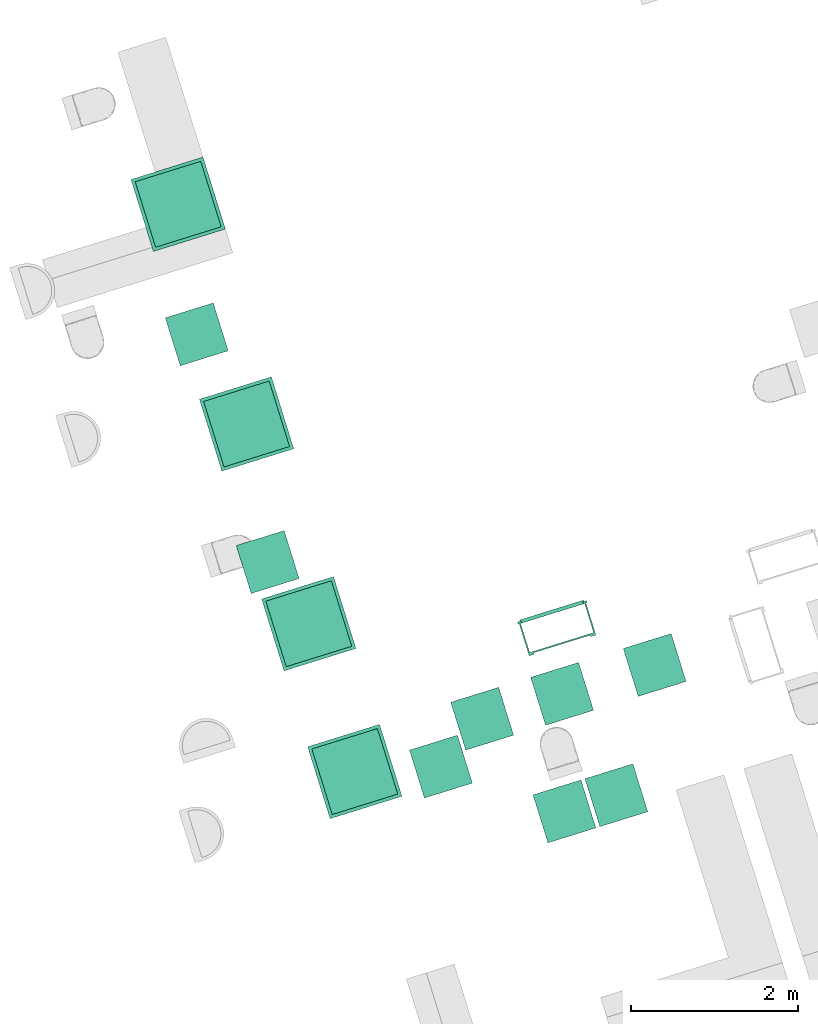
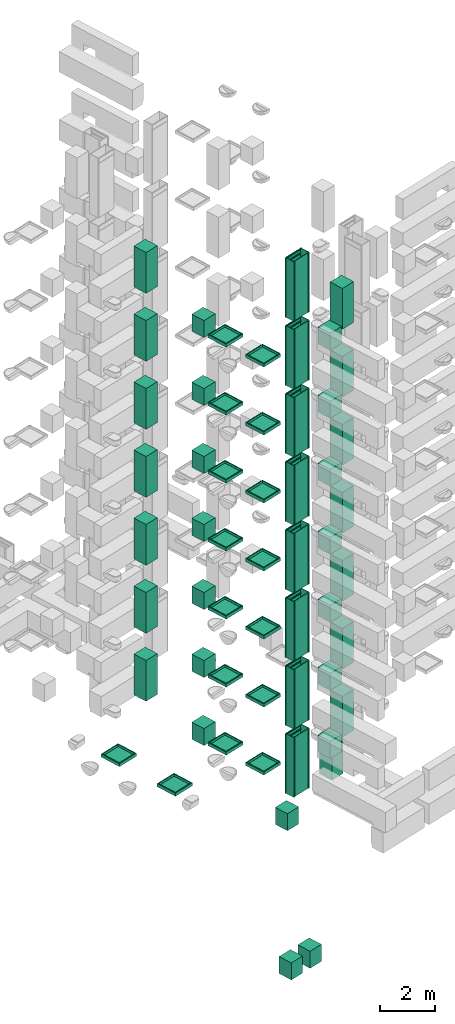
# Not in any storey, part 1 of 17: 17 electric appliances, 16 sanitary terminals, 15 boilers, 8 distribution chamber elements.
"""IFC4 model written with IfcOpenShell, lengths in metres."""

from ifc_helpers import new_model, entity, si_unit, converted_unit, direction, frame, origin, place, context, subcontext, project, indexed_curve, outline, extrude, polygons, source, transform, mapped, material, type_object, type_shapes, element, save


model = new_model("IFC4")

# Units and contexts
model_context = context("Model", 3, precision=1e-05, world=origin(), true_north=direction((6.12323399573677e-17, 1.0)))
body_context = subcontext(model_context, "Body", "Model", "MODEL_VIEW")
ifc_project = project(units=[si_unit("LENGTHUNIT", "METRE"), si_unit("AREAUNIT", "SQUARE_METRE"), converted_unit("PLANEANGLEUNIT", "DEGREE", entity("IfcPlaneAngleMeasure", 0.0174532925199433), si_unit("PLANEANGLEUNIT", "RADIAN"), dimensions=[0, 0, 0, 0, 0, 0, 0]), si_unit("VOLUMEUNIT", "CUBIC_METRE")], contexts=[model_context])

# Distribution chamber elements
ifc_material = material(Name="<Unnamed>")
distribution_chamber_element_type = type_object("IfcDistributionChamberElementType", Name="NLRS_61_GM_UN_Jonka meterkast_gen:Jonka_kast", PredefinedType="METERCHAMBER", material=ifc_material)
shared_shape_1 = source(origin(), body_context, "Body", "SweptSolid", [
    extrude(outline(indexed_curve([(-0.0230000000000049, -0.00925000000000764), (-0.00900000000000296, -0.00925000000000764), (-0.00900000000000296, 0.000749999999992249), (0.00899999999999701, 0.000749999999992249), (0.00899999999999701, -0.00925000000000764), (0.023000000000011, -0.00925000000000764), (0.023000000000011, 0.0177500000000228), (-0.0230000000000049, 0.0177500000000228), (-0.0230000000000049, -0.00925000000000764)], self_intersect=False)), frame((-0.408999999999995, 0.409249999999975, 0.0)), (0.0, 0.0, 1.0), 2.63),
    extrude(outline(indexed_curve([(-0.0230000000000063, -0.00925000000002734), (-0.00900000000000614, -0.00925000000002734), (-0.00900000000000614, 0.00074999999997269), (0.00900000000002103, 0.00074999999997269), (0.00900000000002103, -0.00925000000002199), (0.0229999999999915, -0.00925000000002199), (0.0229999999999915, 0.0177500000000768), (-0.0230000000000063, 0.0177500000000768), (-0.0230000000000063, -0.00925000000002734)], self_intersect=False)), frame((0.409000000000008, 0.409249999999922, 0.0)), (0.0, 0.0, 1.0), 2.63),
    extrude(outline(indexed_curve([(-0.00899999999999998, -0.204999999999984), (0.00899999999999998, -0.204999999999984), (0.00899999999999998, 0.204999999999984), (-0.00899999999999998, 0.204999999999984), (-0.00899999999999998, -0.204999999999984)], self_intersect=False)), frame((-0.408999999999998, 0.204999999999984, 0.0)), (0.0, 0.0, 1.0), 2.63),
    extrude(outline(indexed_curve([(-0.00900000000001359, -0.204999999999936), (0.00900000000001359, -0.204999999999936), (0.00900000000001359, 0.204999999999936), (-0.00900000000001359, 0.204999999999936), (-0.00900000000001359, -0.204999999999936)], self_intersect=False)), frame((0.409000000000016, 0.204999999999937, 0.0)), (0.0, 0.0, 1.0), 2.63),
    extrude(outline(indexed_curve([(-0.00799999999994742, -0.399999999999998), (0.00799999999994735, -0.399999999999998), (0.00799999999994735, 0.399999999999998), (-0.00799999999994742, 0.399999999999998), (-0.00799999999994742, -0.399999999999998)], self_intersect=False)), frame((0.0, 0.434999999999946, 0.00999999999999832), z_axis=(0.0, 0.0, 1.0), x_axis=(0.0, 1.0, 0.0)), (0.0, 0.0, 1.0), 2.39),
    extrude(outline(indexed_curve([(-0.0090000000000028, -0.400000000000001), (0.00899999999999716, -0.400000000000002), (0.0090000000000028, 0.400000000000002), (-0.00899999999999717, 0.400000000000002), (-0.0090000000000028, -0.400000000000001)], self_intersect=False)), frame((0.0, 0.0280000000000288, 0.0), z_axis=(0.0, 0.0, 1.0), x_axis=(0.0, 1.0, 0.0)), (0.0, 0.0, 1.0), 2.63),
    extrude(outline(indexed_curve([(-0.0095, -0.023), (0.0095, -0.023), (0.0095, 0.023), (-0.0095, 0.023), (-0.0095, -0.023)], self_intersect=False)), frame((-0.376999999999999, 0.0095, 0.0), z_axis=(0.0, 0.0, 1.0), x_axis=(0.0, 1.0, 0.0)), (0.0, 0.0, 1.0), 2.63),
    extrude(outline(indexed_curve([(-0.0095, -0.022999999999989), (0.0095, -0.022999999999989), (0.0095, 0.022999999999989), (-0.0095, 0.022999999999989), (-0.0095, -0.022999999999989)], self_intersect=False)), frame((0.377000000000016, 0.00950000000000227, 0.0), z_axis=(0.0, 0.0, 1.0), x_axis=(0.0, 1.0, 0.0)), (0.0, 0.0, 1.0), 2.63),
    extrude(outline(indexed_curve([(-0.00799999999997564, -0.399999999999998), (0.00799999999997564, -0.399999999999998), (0.00799999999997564, 0.399999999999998), (-0.00799999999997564, 0.399999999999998), (-0.00799999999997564, -0.399999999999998)], self_intersect=False)), frame((0.0, 0.434999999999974, 2.41800000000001), z_axis=(0.0, 0.0, 1.0), x_axis=(0.0, 1.0, 0.0)), (0.0, 0.0, 1.0), 0.197000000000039),
    extrude(outline(indexed_curve([(-0.0177500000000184, -0.0230000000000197), (0.00925000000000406, -0.0230000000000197), (0.00925000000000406, -0.00899999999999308), (-0.00074999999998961, -0.00899999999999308), (-0.00074999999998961, 0.00900000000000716), (0.00925000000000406, 0.00900000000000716), (0.00925000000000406, 0.0230000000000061), (-0.0177500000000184, 0.0230000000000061), (-0.0177500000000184, -0.0230000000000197)], self_intersect=False)), frame((-0.386, 0.409249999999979, 2.59200000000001), z_axis=(1.0, 0.0, 0.0), x_axis=(0.0, -1.0, 0.0)), (0.0, 0.0, 1.0), 0.772),
    extrude(outline(indexed_curve([(-0.0177500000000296, -0.0229999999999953), (0.00925000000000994, -0.0229999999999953), (0.00925000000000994, -0.00899999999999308), (-0.000749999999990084, -0.00899999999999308), (-0.000749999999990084, 0.00900000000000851), (0.00925000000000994, 0.00900000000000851), (0.00925000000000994, 0.0229999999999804), (-0.0177500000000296, 0.0229999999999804), (-0.0177500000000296, -0.0229999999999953)], self_intersect=False)), frame((-0.386, 0.40924999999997, 2.40900000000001), z_axis=(1.0, 0.0, 0.0), x_axis=(0.0, -1.0, 0.0)), (0.0, 0.0, 1.0), 0.772),
    extrude(outline(indexed_curve([(-0.0177500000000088, -0.0230000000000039), (0.00925000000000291, -0.0230000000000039), (0.00925000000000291, -0.00899999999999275), (-0.000749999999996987, -0.00899999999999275), (-0.000749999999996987, 0.00899999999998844), (0.00925000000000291, 0.00899999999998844), (0.00925000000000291, 0.0230000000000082), (-0.0177500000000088, 0.0230000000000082), (-0.0177500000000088, -0.0230000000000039)], self_intersect=False)), frame((-0.386, 0.409249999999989, 0.0229999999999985), z_axis=(1.0, 0.0, 0.0), x_axis=(0.0, -1.0, 0.0)), (0.0, 0.0, 1.0), 0.772),
])
type_shapes(distribution_chamber_element_type, [shared_shape_1])
placement_1 = place(None, frame((13.1347999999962, 11.9886000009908, 0.0), z_axis=(0.0, 0.0, 1.0), x_axis=(0.954770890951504, 0.297342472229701, 0.0)))
placement_2 = place(placement_1, origin())
placement_3 = place(placement_2, frame((0.0, 0.0, 6.9)))
placement_4 = place(placement_3, origin())
distribution_chamber_element_1_placement = place(placement_4, frame((67.2429999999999, 12.0249999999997, 0.0)))
element("IfcDistributionChamberElement", 1, at=distribution_chamber_element_1_placement, type_object=distribution_chamber_element_type, material=ifc_material, Name="NLRS_61_GM_UN_Jonka meterkast_gen:Jonka_kast", ObjectType="NLRS_61_GM_UN_Jonka meterkast_gen:Jonka_kast", PredefinedType="METERCHAMBER", context=body_context, shape_type="MappedRepresentation", body=[
    mapped(shared_shape_1, transform((0.0, 0.0, 0.0), scale=1.0)),
])
placement_5 = place(placement_2, frame((0.0, 0.0, 9.9)))
placement_6 = place(placement_5, origin())
distribution_chamber_element_2_placement = place(placement_6, frame((67.2429999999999, 12.0249999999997, 0.0)))
element("IfcDistributionChamberElement", 2, at=distribution_chamber_element_2_placement, type_object=distribution_chamber_element_type, material=ifc_material, Name="NLRS_61_GM_UN_Jonka meterkast_gen:Jonka_kast", ObjectType="NLRS_61_GM_UN_Jonka meterkast_gen:Jonka_kast", PredefinedType="METERCHAMBER", context=body_context, shape_type="MappedRepresentation", body=[
    mapped(shared_shape_1, transform((0.0, 0.0, 0.0), scale=1.0)),
])
placement_7 = place(placement_2, frame((0.0, 0.0, 12.9)))
placement_8 = place(placement_7, origin())
distribution_chamber_element_3_placement = place(placement_8, frame((67.2429999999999, 12.0249999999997, 0.0)))
element("IfcDistributionChamberElement", 3, at=distribution_chamber_element_3_placement, type_object=distribution_chamber_element_type, material=ifc_material, Name="NLRS_61_GM_UN_Jonka meterkast_gen:Jonka_kast", ObjectType="NLRS_61_GM_UN_Jonka meterkast_gen:Jonka_kast", PredefinedType="METERCHAMBER", context=body_context, shape_type="MappedRepresentation", body=[
    mapped(shared_shape_1, transform((0.0, 0.0, 0.0), scale=1.0)),
])
placement_9 = place(placement_2, frame((0.0, 0.0, 15.9)))
placement_10 = place(placement_9, origin())
distribution_chamber_element_4_placement = place(placement_10, frame((67.2429999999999, 12.0249999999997, 0.0)))
element("IfcDistributionChamberElement", 4, at=distribution_chamber_element_4_placement, type_object=distribution_chamber_element_type, material=ifc_material, Name="NLRS_61_GM_UN_Jonka meterkast_gen:Jonka_kast", ObjectType="NLRS_61_GM_UN_Jonka meterkast_gen:Jonka_kast", PredefinedType="METERCHAMBER", context=body_context, shape_type="MappedRepresentation", body=[
    mapped(shared_shape_1, transform((0.0, 0.0, 0.0), scale=1.0)),
])
placement_11 = place(placement_2, frame((0.0, 0.0, 18.9)))
placement_12 = place(placement_11, origin())
distribution_chamber_element_5_placement = place(placement_12, frame((67.2429999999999, 12.0249999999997, 0.0)))
element("IfcDistributionChamberElement", 5, at=distribution_chamber_element_5_placement, type_object=distribution_chamber_element_type, material=ifc_material, Name="NLRS_61_GM_UN_Jonka meterkast_gen:Jonka_kast", ObjectType="NLRS_61_GM_UN_Jonka meterkast_gen:Jonka_kast", PredefinedType="METERCHAMBER", context=body_context, shape_type="MappedRepresentation", body=[
    mapped(shared_shape_1, transform((0.0, 0.0, 0.0), scale=1.0)),
])
placement_13 = place(placement_2, frame((0.0, 0.0, 21.9)))
placement_14 = place(placement_13, origin())
distribution_chamber_element_6_placement = place(placement_14, frame((67.2429999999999, 12.0249999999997, 0.0)))
element("IfcDistributionChamberElement", 6, at=distribution_chamber_element_6_placement, type_object=distribution_chamber_element_type, material=ifc_material, Name="NLRS_61_GM_UN_Jonka meterkast_gen:Jonka_kast", ObjectType="NLRS_61_GM_UN_Jonka meterkast_gen:Jonka_kast", PredefinedType="METERCHAMBER", context=body_context, shape_type="MappedRepresentation", body=[
    mapped(shared_shape_1, transform((0.0, 0.0, 0.0), scale=1.0)),
])
placement_15 = place(placement_2, frame((0.0, 0.0, 24.9)))
placement_16 = place(placement_15, origin())
distribution_chamber_element_7_placement = place(placement_16, frame((67.2429999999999, 12.0249999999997, 0.0)))
element("IfcDistributionChamberElement", 7, at=distribution_chamber_element_7_placement, type_object=distribution_chamber_element_type, material=ifc_material, Name="NLRS_61_GM_UN_Jonka meterkast_gen:Jonka_kast", ObjectType="NLRS_61_GM_UN_Jonka meterkast_gen:Jonka_kast", PredefinedType="METERCHAMBER", context=body_context, shape_type="MappedRepresentation", body=[
    mapped(shared_shape_1, transform((0.0, 0.0, 0.0), scale=1.0)),
])
placement_17 = place(placement_2, frame((0.0, 0.0, 3.9)))
placement_18 = place(placement_17, origin())
distribution_chamber_element_8_placement = place(placement_18, frame((67.2430000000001, 12.0250000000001, 0.0)))
element("IfcDistributionChamberElement", 8, at=distribution_chamber_element_8_placement, type_object=distribution_chamber_element_type, material=ifc_material, Name="NLRS_61_GM_UN_Jonka meterkast_gen:Jonka_kast", ObjectType="NLRS_61_GM_UN_Jonka meterkast_gen:Jonka_kast", PredefinedType="METERCHAMBER", context=body_context, shape_type="MappedRepresentation", body=[
    mapped(shared_shape_1, transform((0.0, 0.0, 0.0), scale=1.0)),
])

# Boilers
boiler_type_1 = type_object("IfcBoilerType", Name="NLRS_51_ME_WB_warmtepomp_gen:generiek", PredefinedType="NOTDEFINED", material=ifc_material)
shared_shape_2 = source(origin(), body_context, "Body", "SweptSolid", [
    extrude(outline(indexed_curve([(-0.300000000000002, -0.299999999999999), (0.300000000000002, -0.299999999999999), (0.300000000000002, 0.299999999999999), (-0.300000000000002, 0.299999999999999), (-0.300000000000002, -0.299999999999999)], self_intersect=False)), frame((0.124999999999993, -0.350000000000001, 0.6), z_axis=(0.0, 0.0, 1.0), x_axis=(0.0, 1.0, 0.0)), (0.0, 0.0, 1.0), 1.8),
])
type_shapes(boiler_type_1, [shared_shape_2])
placement_19 = place(placement_3, origin())
boiler_1_placement = place(placement_19, frame((67.1999999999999, 10.4749999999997, 0.0)))
element("IfcBoiler", 9, at=boiler_1_placement, type_object=boiler_type_1, material=ifc_material, Name="NLRS_51_ME_WB_warmtepomp_gen:generiek", ObjectType="NLRS_51_ME_WB_warmtepomp_gen:generiek", PredefinedType="NOTDEFINED", context=body_context, shape_type="MappedRepresentation", body=[
    mapped(shared_shape_2, transform((0.0, 0.0, 0.0), scale=1.0)),
])
placement_20 = place(placement_3, origin())
boiler_2_placement = place(placement_20, frame((64.05, 17.2249999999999, 0.0)))
element("IfcBoiler", 10, at=boiler_2_placement, type_object=boiler_type_1, material=ifc_material, Name="NLRS_51_ME_WB_warmtepomp_gen:generiek", ObjectType="NLRS_51_ME_WB_warmtepomp_gen:generiek", PredefinedType="NOTDEFINED", context=body_context, shape_type="MappedRepresentation", body=[
    mapped(shared_shape_2, transform((0.0, 0.0, 0.0), scale=1.0)),
])
placement_21 = place(placement_5, origin())
boiler_3_placement = place(placement_21, frame((64.05, 17.2249999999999, 0.0)))
element("IfcBoiler", 11, at=boiler_3_placement, type_object=boiler_type_1, material=ifc_material, Name="NLRS_51_ME_WB_warmtepomp_gen:generiek", ObjectType="NLRS_51_ME_WB_warmtepomp_gen:generiek", PredefinedType="NOTDEFINED", context=body_context, shape_type="MappedRepresentation", body=[
    mapped(shared_shape_2, transform((0.0, 0.0, 0.0), scale=1.0)),
])
placement_22 = place(placement_7, origin())
boiler_4_placement = place(placement_22, frame((64.05, 17.2249999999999, 0.0)))
element("IfcBoiler", 12, at=boiler_4_placement, type_object=boiler_type_1, material=ifc_material, Name="NLRS_51_ME_WB_warmtepomp_gen:generiek", ObjectType="NLRS_51_ME_WB_warmtepomp_gen:generiek", PredefinedType="NOTDEFINED", context=body_context, shape_type="MappedRepresentation", body=[
    mapped(shared_shape_2, transform((0.0, 0.0, 0.0), scale=1.0)),
])
placement_23 = place(placement_9, origin())
boiler_5_placement = place(placement_23, frame((64.05, 17.2249999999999, 0.0)))
element("IfcBoiler", 13, at=boiler_5_placement, type_object=boiler_type_1, material=ifc_material, Name="NLRS_51_ME_WB_warmtepomp_gen:generiek", ObjectType="NLRS_51_ME_WB_warmtepomp_gen:generiek", PredefinedType="NOTDEFINED", context=body_context, shape_type="MappedRepresentation", body=[
    mapped(shared_shape_2, transform((0.0, 0.0, 0.0), scale=1.0)),
])
placement_24 = place(placement_11, origin())
boiler_6_placement = place(placement_24, frame((64.05, 17.2249999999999, 0.0)))
element("IfcBoiler", 14, at=boiler_6_placement, type_object=boiler_type_1, material=ifc_material, Name="NLRS_51_ME_WB_warmtepomp_gen:generiek", ObjectType="NLRS_51_ME_WB_warmtepomp_gen:generiek", PredefinedType="NOTDEFINED", context=body_context, shape_type="MappedRepresentation", body=[
    mapped(shared_shape_2, transform((0.0, 0.0, 0.0), scale=1.0)),
])
placement_25 = place(placement_13, origin())
boiler_7_placement = place(placement_25, frame((64.05, 17.2249999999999, 0.0)))
element("IfcBoiler", 15, at=boiler_7_placement, type_object=boiler_type_1, material=ifc_material, Name="NLRS_51_ME_WB_warmtepomp_gen:generiek", ObjectType="NLRS_51_ME_WB_warmtepomp_gen:generiek", PredefinedType="NOTDEFINED", context=body_context, shape_type="MappedRepresentation", body=[
    mapped(shared_shape_2, transform((0.0, 0.0, 0.0), scale=1.0)),
])
placement_26 = place(placement_15, origin())
boiler_8_placement = place(placement_26, frame((64.05, 17.2249999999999, 0.0)))
element("IfcBoiler", 16, at=boiler_8_placement, type_object=boiler_type_1, material=ifc_material, Name="NLRS_51_ME_WB_warmtepomp_gen:generiek", ObjectType="NLRS_51_ME_WB_warmtepomp_gen:generiek", PredefinedType="NOTDEFINED", context=body_context, shape_type="MappedRepresentation", body=[
    mapped(shared_shape_2, transform((0.0, 0.0, 0.0), scale=1.0)),
])
placement_27 = place(placement_5, origin())
boiler_9_placement = place(placement_27, frame((67.1999999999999, 10.4749999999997, 0.0)))
element("IfcBoiler", 17, at=boiler_9_placement, type_object=boiler_type_1, material=ifc_material, Name="NLRS_51_ME_WB_warmtepomp_gen:generiek", ObjectType="NLRS_51_ME_WB_warmtepomp_gen:generiek", PredefinedType="NOTDEFINED", context=body_context, shape_type="MappedRepresentation", body=[
    mapped(shared_shape_2, transform((0.0, 0.0, 0.0), scale=1.0)),
])
placement_28 = place(placement_7, origin())
boiler_10_placement = place(placement_28, frame((67.1999999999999, 10.4749999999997, 0.0)))
element("IfcBoiler", 18, at=boiler_10_placement, type_object=boiler_type_1, material=ifc_material, Name="NLRS_51_ME_WB_warmtepomp_gen:generiek", ObjectType="NLRS_51_ME_WB_warmtepomp_gen:generiek", PredefinedType="NOTDEFINED", context=body_context, shape_type="MappedRepresentation", body=[
    mapped(shared_shape_2, transform((0.0, 0.0, 0.0), scale=1.0)),
])
placement_29 = place(placement_9, origin())
boiler_11_placement = place(placement_29, frame((67.1999999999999, 10.4749999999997, 0.0)))
element("IfcBoiler", 19, at=boiler_11_placement, type_object=boiler_type_1, material=ifc_material, Name="NLRS_51_ME_WB_warmtepomp_gen:generiek", ObjectType="NLRS_51_ME_WB_warmtepomp_gen:generiek", PredefinedType="NOTDEFINED", context=body_context, shape_type="MappedRepresentation", body=[
    mapped(shared_shape_2, transform((0.0, 0.0, 0.0), scale=1.0)),
])
placement_30 = place(placement_11, origin())
boiler_12_placement = place(placement_30, frame((67.1999999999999, 10.4749999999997, 0.0)))
element("IfcBoiler", 20, at=boiler_12_placement, type_object=boiler_type_1, material=ifc_material, Name="NLRS_51_ME_WB_warmtepomp_gen:generiek", ObjectType="NLRS_51_ME_WB_warmtepomp_gen:generiek", PredefinedType="NOTDEFINED", context=body_context, shape_type="MappedRepresentation", body=[
    mapped(shared_shape_2, transform((0.0, 0.0, 0.0), scale=1.0)),
])
placement_31 = place(placement_13, origin())
boiler_13_placement = place(placement_31, frame((67.1999999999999, 10.4749999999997, 0.0)))
element("IfcBoiler", 21, at=boiler_13_placement, type_object=boiler_type_1, material=ifc_material, Name="NLRS_51_ME_WB_warmtepomp_gen:generiek", ObjectType="NLRS_51_ME_WB_warmtepomp_gen:generiek", PredefinedType="NOTDEFINED", context=body_context, shape_type="MappedRepresentation", body=[
    mapped(shared_shape_2, transform((0.0, 0.0, 0.0), scale=1.0)),
])
placement_32 = place(placement_15, origin())
boiler_14_placement = place(placement_32, frame((67.1999999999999, 10.4749999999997, 0.0)))
element("IfcBoiler", 22, at=boiler_14_placement, type_object=boiler_type_1, material=ifc_material, Name="NLRS_51_ME_WB_warmtepomp_gen:generiek", ObjectType="NLRS_51_ME_WB_warmtepomp_gen:generiek", PredefinedType="NOTDEFINED", context=body_context, shape_type="MappedRepresentation", body=[
    mapped(shared_shape_2, transform((0.0, 0.0, 0.0), scale=1.0)),
])

# Sanitary terminals
sanitary_terminal_type_1 = type_object("IfcSanitaryTerminalType", Name="NLRS_74_PF_UN_douche_gen:douchebak 900x900mm", PredefinedType="NOTDEFINED", material=ifc_material)
shared_shape_3 = source(origin(), body_context, "Body", "Tessellation", [
    polygons([(1.65924045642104, -0.403499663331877, -6.76), (1.65924045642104, 0.496500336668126, -6.76), (0.759240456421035, 0.496500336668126, -6.76), (0.759240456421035, -0.403499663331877, -6.76), (0.799240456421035, -0.36349966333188, -6.76), (0.799240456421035, 0.456500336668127, -6.76), (1.61924045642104, 0.456500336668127, -6.76), (1.61924045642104, -0.36349966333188, -6.76), (1.65924045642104, -0.403499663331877, -6.9), (0.759240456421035, -0.403499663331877, -6.9), (0.759240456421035, 0.496500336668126, -6.9), (1.65924045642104, 0.496500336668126, -6.9), (1.61924045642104, -0.36349966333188, -6.86), (1.61924045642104, 0.456500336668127, -6.86), (0.799240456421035, 0.456500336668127, -6.86), (0.799240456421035, -0.36349966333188, -6.86)], [[[1, 2, 3, 4], [5, 6, 7, 8]], [[9, 10, 11, 12]], [[4, 10, 9, 1]], [[3, 11, 10, 4]], [[2, 12, 11, 3]], [[1, 9, 12, 2]], [[13, 14, 15, 16]], [[16, 5, 8, 13]], [[15, 6, 5, 16]], [[14, 7, 6, 15]], [[13, 8, 7, 14]]], closed=True),
])
type_shapes(sanitary_terminal_type_1, [shared_shape_3])
placement_33 = place(placement_3, origin())
sanitary_terminal_1_placement = place(placement_33, frame((63.2157595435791, 11.2784996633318, 6.9)))
element("IfcSanitaryTerminal", 23, at=sanitary_terminal_1_placement, type_object=sanitary_terminal_type_1, material=ifc_material, Name="NLRS_74_PF_UN_douche_gen:douchebak 900x900mm", ObjectType="NLRS_74_PF_UN_douche_gen:douchebak 900x900mm", PredefinedType="NOTDEFINED", context=body_context, shape_type="MappedRepresentation", body=[
    mapped(shared_shape_3, transform((0.0, 0.0, 0.0), scale=1.0)),
])
placement_34 = place(placement_5, origin())
sanitary_terminal_2_placement = place(placement_34, frame((63.2157595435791, 11.2784996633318, 6.9)))
element("IfcSanitaryTerminal", 24, at=sanitary_terminal_2_placement, type_object=sanitary_terminal_type_1, material=ifc_material, Name="NLRS_74_PF_UN_douche_gen:douchebak 900x900mm", ObjectType="NLRS_74_PF_UN_douche_gen:douchebak 900x900mm", PredefinedType="NOTDEFINED", context=body_context, shape_type="MappedRepresentation", body=[
    mapped(shared_shape_3, transform((0.0, 0.0, 0.0), scale=1.0)),
])
placement_35 = place(placement_7, origin())
sanitary_terminal_3_placement = place(placement_35, frame((63.2157595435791, 11.2784996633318, 6.9)))
element("IfcSanitaryTerminal", 25, at=sanitary_terminal_3_placement, type_object=sanitary_terminal_type_1, material=ifc_material, Name="NLRS_74_PF_UN_douche_gen:douchebak 900x900mm", ObjectType="NLRS_74_PF_UN_douche_gen:douchebak 900x900mm", PredefinedType="NOTDEFINED", context=body_context, shape_type="MappedRepresentation", body=[
    mapped(shared_shape_3, transform((0.0, 0.0, 0.0), scale=1.0)),
])
placement_36 = place(placement_9, origin())
sanitary_terminal_4_placement = place(placement_36, frame((63.2157595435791, 11.2784996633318, 6.9)))
element("IfcSanitaryTerminal", 26, at=sanitary_terminal_4_placement, type_object=sanitary_terminal_type_1, material=ifc_material, Name="NLRS_74_PF_UN_douche_gen:douchebak 900x900mm", ObjectType="NLRS_74_PF_UN_douche_gen:douchebak 900x900mm", PredefinedType="NOTDEFINED", context=body_context, shape_type="MappedRepresentation", body=[
    mapped(shared_shape_3, transform((0.0, 0.0, 0.0), scale=1.0)),
])
placement_37 = place(placement_11, origin())
sanitary_terminal_5_placement = place(placement_37, frame((63.2157595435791, 11.2784996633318, 6.9)))
element("IfcSanitaryTerminal", 27, at=sanitary_terminal_5_placement, type_object=sanitary_terminal_type_1, material=ifc_material, Name="NLRS_74_PF_UN_douche_gen:douchebak 900x900mm", ObjectType="NLRS_74_PF_UN_douche_gen:douchebak 900x900mm", PredefinedType="NOTDEFINED", context=body_context, shape_type="MappedRepresentation", body=[
    mapped(shared_shape_3, transform((0.0, 0.0, 0.0), scale=1.0)),
])
placement_38 = place(placement_13, origin())
sanitary_terminal_6_placement = place(placement_38, frame((63.2157595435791, 11.2784996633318, 6.9)))
element("IfcSanitaryTerminal", 28, at=sanitary_terminal_6_placement, type_object=sanitary_terminal_type_1, material=ifc_material, Name="NLRS_74_PF_UN_douche_gen:douchebak 900x900mm", ObjectType="NLRS_74_PF_UN_douche_gen:douchebak 900x900mm", PredefinedType="NOTDEFINED", context=body_context, shape_type="MappedRepresentation", body=[
    mapped(shared_shape_3, transform((0.0, 0.0, 0.0), scale=1.0)),
])
placement_39 = place(placement_15, origin())
sanitary_terminal_7_placement = place(placement_39, frame((63.2157595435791, 11.2784996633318, 6.9)))
element("IfcSanitaryTerminal", 29, at=sanitary_terminal_7_placement, type_object=sanitary_terminal_type_1, material=ifc_material, Name="NLRS_74_PF_UN_douche_gen:douchebak 900x900mm", ObjectType="NLRS_74_PF_UN_douche_gen:douchebak 900x900mm", PredefinedType="NOTDEFINED", context=body_context, shape_type="MappedRepresentation", body=[
    mapped(shared_shape_3, transform((0.0, 0.0, 0.0), scale=1.0)),
])
placement_40 = place(placement_3, origin())
sanitary_terminal_8_placement = place(placement_40, frame((63.2157595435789, 13.1284996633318, 6.9)))
element("IfcSanitaryTerminal", 30, at=sanitary_terminal_8_placement, type_object=sanitary_terminal_type_1, material=ifc_material, Name="NLRS_74_PF_UN_douche_gen:douchebak 900x900mm", ObjectType="NLRS_74_PF_UN_douche_gen:douchebak 900x900mm", PredefinedType="NOTDEFINED", context=body_context, shape_type="MappedRepresentation", body=[
    mapped(shared_shape_3, transform((0.0, 0.0, 0.0), scale=1.0)),
])
placement_41 = place(placement_5, origin())
sanitary_terminal_9_placement = place(placement_41, frame((63.2157595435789, 13.1284996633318, 6.9)))
element("IfcSanitaryTerminal", 31, at=sanitary_terminal_9_placement, type_object=sanitary_terminal_type_1, material=ifc_material, Name="NLRS_74_PF_UN_douche_gen:douchebak 900x900mm", ObjectType="NLRS_74_PF_UN_douche_gen:douchebak 900x900mm", PredefinedType="NOTDEFINED", context=body_context, shape_type="MappedRepresentation", body=[
    mapped(shared_shape_3, transform((0.0, 0.0, 0.0), scale=1.0)),
])
placement_42 = place(placement_7, origin())
sanitary_terminal_10_placement = place(placement_42, frame((63.2157595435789, 13.1284996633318, 6.9)))
element("IfcSanitaryTerminal", 32, at=sanitary_terminal_10_placement, type_object=sanitary_terminal_type_1, material=ifc_material, Name="NLRS_74_PF_UN_douche_gen:douchebak 900x900mm", ObjectType="NLRS_74_PF_UN_douche_gen:douchebak 900x900mm", PredefinedType="NOTDEFINED", context=body_context, shape_type="MappedRepresentation", body=[
    mapped(shared_shape_3, transform((0.0, 0.0, 0.0), scale=1.0)),
])
placement_43 = place(placement_9, origin())
sanitary_terminal_11_placement = place(placement_43, frame((63.2157595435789, 13.1284996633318, 6.9)))
element("IfcSanitaryTerminal", 33, at=sanitary_terminal_11_placement, type_object=sanitary_terminal_type_1, material=ifc_material, Name="NLRS_74_PF_UN_douche_gen:douchebak 900x900mm", ObjectType="NLRS_74_PF_UN_douche_gen:douchebak 900x900mm", PredefinedType="NOTDEFINED", context=body_context, shape_type="MappedRepresentation", body=[
    mapped(shared_shape_3, transform((0.0, 0.0, 0.0), scale=1.0)),
])
placement_44 = place(placement_11, origin())
sanitary_terminal_12_placement = place(placement_44, frame((63.2157595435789, 13.1284996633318, 6.9)))
element("IfcSanitaryTerminal", 34, at=sanitary_terminal_12_placement, type_object=sanitary_terminal_type_1, material=ifc_material, Name="NLRS_74_PF_UN_douche_gen:douchebak 900x900mm", ObjectType="NLRS_74_PF_UN_douche_gen:douchebak 900x900mm", PredefinedType="NOTDEFINED", context=body_context, shape_type="MappedRepresentation", body=[
    mapped(shared_shape_3, transform((0.0, 0.0, 0.0), scale=1.0)),
])
placement_45 = place(placement_13, origin())
sanitary_terminal_13_placement = place(placement_45, frame((63.2157595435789, 13.1284996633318, 6.9)))
element("IfcSanitaryTerminal", 35, at=sanitary_terminal_13_placement, type_object=sanitary_terminal_type_1, material=ifc_material, Name="NLRS_74_PF_UN_douche_gen:douchebak 900x900mm", ObjectType="NLRS_74_PF_UN_douche_gen:douchebak 900x900mm", PredefinedType="NOTDEFINED", context=body_context, shape_type="MappedRepresentation", body=[
    mapped(shared_shape_3, transform((0.0, 0.0, 0.0), scale=1.0)),
])
placement_46 = place(placement_15, origin())
sanitary_terminal_14_placement = place(placement_46, frame((63.2157595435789, 13.1284996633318, 6.9)))
element("IfcSanitaryTerminal", 36, at=sanitary_terminal_14_placement, type_object=sanitary_terminal_type_1, material=ifc_material, Name="NLRS_74_PF_UN_douche_gen:douchebak 900x900mm", ObjectType="NLRS_74_PF_UN_douche_gen:douchebak 900x900mm", PredefinedType="NOTDEFINED", context=body_context, shape_type="MappedRepresentation", body=[
    mapped(shared_shape_3, transform((0.0, 0.0, 0.0), scale=1.0)),
])
placement_47 = place(placement_17, origin())
sanitary_terminal_15_placement = place(placement_47, frame((63.2157595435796, 18.3784996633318, 6.9)))
element("IfcSanitaryTerminal", 37, at=sanitary_terminal_15_placement, type_object=sanitary_terminal_type_1, material=ifc_material, Name="NLRS_74_PF_UN_douche_gen:douchebak 900x900mm", ObjectType="NLRS_74_PF_UN_douche_gen:douchebak 900x900mm", PredefinedType="NOTDEFINED", context=body_context, shape_type="MappedRepresentation", body=[
    mapped(shared_shape_3, transform((0.0, 0.0, 0.0), scale=1.0)),
])

# Electric appliances
electric_appliance_type_1 = type_object("IfcElectricApplianceType", Name="NLRS_85_SE_UN_opstelplaats wasmachine_gen:wasdroger", PredefinedType="TUMBLEDRYER", material=ifc_material)
shared_shape_4 = source(origin(), body_context, "Body", "SweptSolid", [
    extrude(outline(indexed_curve([(-0.3, -0.299999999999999), (0.3, -0.299999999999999), (0.3, 0.299999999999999), (-0.3, 0.299999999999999), (-0.3, -0.299999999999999)], self_intersect=False)), frame((0.0, -0.349999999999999, 0.0), z_axis=(0.0, 0.0, 1.0), x_axis=(-1.0, 0.0, 0.0)), (0.0, 0.0, 1.0), 0.75026866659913),
])
type_shapes(electric_appliance_type_1, [shared_shape_4])
placement_48 = place(placement_17, origin())
electric_appliance_1_placement = place(placement_48, frame((65.4249999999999, 10.7249999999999, 0.0), z_axis=(0.0, 0.0, 1.0), x_axis=(-1.0, 0.0, 0.0)))
element("IfcElectricAppliance", 38, at=electric_appliance_1_placement, type_object=electric_appliance_type_1, material=ifc_material, Name="NLRS_85_SE_UN_opstelplaats wasmachine_gen:wasdroger", ObjectType="NLRS_85_SE_UN_opstelplaats wasmachine_gen:wasdroger", PredefinedType="TUMBLEDRYER", context=body_context, shape_type="MappedRepresentation", body=[
    mapped(shared_shape_4, transform((0.0, 0.0, 0.0), scale=1.0)),
])
electric_appliance_type_2 = type_object("IfcElectricApplianceType", Name="NLRS_85_SE_UN_opstelplaats wasmachine_gen:wasdroger", PredefinedType="TUMBLEDRYER", material=ifc_material)
shared_shape_5 = source(origin(), body_context, "Body", "SweptSolid", [
    extrude(outline(indexed_curve([(-0.299999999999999, -0.3), (0.299999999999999, -0.3), (0.299999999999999, 0.3), (-0.299999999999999, 0.3), (-0.299999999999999, -0.3)], self_intersect=False)), frame((0.0, 0.349999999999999, 0.0), z_axis=(0.0, 0.0, 1.0), x_axis=(0.0, 1.0, 0.0)), (0.0, 0.0, 1.0), 0.75026866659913),
])
type_shapes(electric_appliance_type_2, [shared_shape_5])
electric_appliance_2_placement = place(placement_19, frame((66.675, 10.4749999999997, 0.0), z_axis=(0.0, 0.0, 1.0), x_axis=(-1.0, 0.0, 0.0)))
element("IfcElectricAppliance", 39, at=electric_appliance_2_placement, type_object=electric_appliance_type_2, material=ifc_material, Name="NLRS_85_SE_UN_opstelplaats wasmachine_gen:wasdroger", ObjectType="NLRS_85_SE_UN_opstelplaats wasmachine_gen:wasdroger", PredefinedType="TUMBLEDRYER", context=body_context, shape_type="MappedRepresentation", body=[
    mapped(shared_shape_5, transform((0.0, 0.0, 0.0), scale=1.0)),
])
electric_appliance_3_placement = place(placement_27, frame((66.675, 10.4749999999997, 0.0), z_axis=(0.0, 0.0, 1.0), x_axis=(-1.0, 0.0, 0.0)))
element("IfcElectricAppliance", 40, at=electric_appliance_3_placement, type_object=electric_appliance_type_2, material=ifc_material, Name="NLRS_85_SE_UN_opstelplaats wasmachine_gen:wasdroger", ObjectType="NLRS_85_SE_UN_opstelplaats wasmachine_gen:wasdroger", PredefinedType="TUMBLEDRYER", context=body_context, shape_type="MappedRepresentation", body=[
    mapped(shared_shape_5, transform((0.0, 0.0, 0.0), scale=1.0)),
])
electric_appliance_4_placement = place(placement_28, frame((66.675, 10.4749999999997, 0.0), z_axis=(0.0, 0.0, 1.0), x_axis=(-1.0, 0.0, 0.0)))
element("IfcElectricAppliance", 41, at=electric_appliance_4_placement, type_object=electric_appliance_type_2, material=ifc_material, Name="NLRS_85_SE_UN_opstelplaats wasmachine_gen:wasdroger", ObjectType="NLRS_85_SE_UN_opstelplaats wasmachine_gen:wasdroger", PredefinedType="TUMBLEDRYER", context=body_context, shape_type="MappedRepresentation", body=[
    mapped(shared_shape_5, transform((0.0, 0.0, 0.0), scale=1.0)),
])
electric_appliance_5_placement = place(placement_29, frame((66.675, 10.4749999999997, 0.0), z_axis=(0.0, 0.0, 1.0), x_axis=(-1.0, 0.0, 0.0)))
element("IfcElectricAppliance", 42, at=electric_appliance_5_placement, type_object=electric_appliance_type_2, material=ifc_material, Name="NLRS_85_SE_UN_opstelplaats wasmachine_gen:wasdroger", ObjectType="NLRS_85_SE_UN_opstelplaats wasmachine_gen:wasdroger", PredefinedType="TUMBLEDRYER", context=body_context, shape_type="MappedRepresentation", body=[
    mapped(shared_shape_5, transform((0.0, 0.0, 0.0), scale=1.0)),
])
electric_appliance_6_placement = place(placement_30, frame((66.675, 10.4749999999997, 0.0), z_axis=(0.0, 0.0, 1.0), x_axis=(-1.0, 0.0, 0.0)))
element("IfcElectricAppliance", 43, at=electric_appliance_6_placement, type_object=electric_appliance_type_2, material=ifc_material, Name="NLRS_85_SE_UN_opstelplaats wasmachine_gen:wasdroger", ObjectType="NLRS_85_SE_UN_opstelplaats wasmachine_gen:wasdroger", PredefinedType="TUMBLEDRYER", context=body_context, shape_type="MappedRepresentation", body=[
    mapped(shared_shape_5, transform((0.0, 0.0, 0.0), scale=1.0)),
])
electric_appliance_7_placement = place(placement_31, frame((66.675, 10.4749999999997, 0.0), z_axis=(0.0, 0.0, 1.0), x_axis=(-1.0, 0.0, 0.0)))
element("IfcElectricAppliance", 44, at=electric_appliance_7_placement, type_object=electric_appliance_type_2, material=ifc_material, Name="NLRS_85_SE_UN_opstelplaats wasmachine_gen:wasdroger", ObjectType="NLRS_85_SE_UN_opstelplaats wasmachine_gen:wasdroger", PredefinedType="TUMBLEDRYER", context=body_context, shape_type="MappedRepresentation", body=[
    mapped(shared_shape_5, transform((0.0, 0.0, 0.0), scale=1.0)),
])
electric_appliance_8_placement = place(placement_32, frame((66.675, 10.4749999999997, 0.0), z_axis=(0.0, 0.0, 1.0), x_axis=(-1.0, 0.0, 0.0)))
element("IfcElectricAppliance", 45, at=electric_appliance_8_placement, type_object=electric_appliance_type_2, material=ifc_material, Name="NLRS_85_SE_UN_opstelplaats wasmachine_gen:wasdroger", ObjectType="NLRS_85_SE_UN_opstelplaats wasmachine_gen:wasdroger", PredefinedType="TUMBLEDRYER", context=body_context, shape_type="MappedRepresentation", body=[
    mapped(shared_shape_5, transform((0.0, 0.0, 0.0), scale=1.0)),
])
electric_appliance_9_placement = place(placement_20, frame((64.175, 14.3749999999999, 0.0), z_axis=(0.0, 0.0, 1.0), x_axis=(-1.0, 0.0, 0.0)))
element("IfcElectricAppliance", 46, at=electric_appliance_9_placement, type_object=electric_appliance_type_2, material=ifc_material, Name="NLRS_85_SE_UN_opstelplaats wasmachine_gen:wasdroger", ObjectType="NLRS_85_SE_UN_opstelplaats wasmachine_gen:wasdroger", PredefinedType="TUMBLEDRYER", context=body_context, shape_type="MappedRepresentation", body=[
    mapped(shared_shape_5, transform((0.0, 0.0, 0.0), scale=1.0)),
])
electric_appliance_10_placement = place(placement_21, frame((64.175, 14.3749999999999, 0.0), z_axis=(0.0, 0.0, 1.0), x_axis=(-1.0, 0.0, 0.0)))
element("IfcElectricAppliance", 47, at=electric_appliance_10_placement, type_object=electric_appliance_type_2, material=ifc_material, Name="NLRS_85_SE_UN_opstelplaats wasmachine_gen:wasdroger", ObjectType="NLRS_85_SE_UN_opstelplaats wasmachine_gen:wasdroger", PredefinedType="TUMBLEDRYER", context=body_context, shape_type="MappedRepresentation", body=[
    mapped(shared_shape_5, transform((0.0, 0.0, 0.0), scale=1.0)),
])
electric_appliance_11_placement = place(placement_22, frame((64.175, 14.3749999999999, 0.0), z_axis=(0.0, 0.0, 1.0), x_axis=(-1.0, 0.0, 0.0)))
element("IfcElectricAppliance", 48, at=electric_appliance_11_placement, type_object=electric_appliance_type_2, material=ifc_material, Name="NLRS_85_SE_UN_opstelplaats wasmachine_gen:wasdroger", ObjectType="NLRS_85_SE_UN_opstelplaats wasmachine_gen:wasdroger", PredefinedType="TUMBLEDRYER", context=body_context, shape_type="MappedRepresentation", body=[
    mapped(shared_shape_5, transform((0.0, 0.0, 0.0), scale=1.0)),
])
electric_appliance_12_placement = place(placement_23, frame((64.175, 14.3749999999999, 0.0), z_axis=(0.0, 0.0, 1.0), x_axis=(-1.0, 0.0, 0.0)))
element("IfcElectricAppliance", 49, at=electric_appliance_12_placement, type_object=electric_appliance_type_2, material=ifc_material, Name="NLRS_85_SE_UN_opstelplaats wasmachine_gen:wasdroger", ObjectType="NLRS_85_SE_UN_opstelplaats wasmachine_gen:wasdroger", PredefinedType="TUMBLEDRYER", context=body_context, shape_type="MappedRepresentation", body=[
    mapped(shared_shape_5, transform((0.0, 0.0, 0.0), scale=1.0)),
])
electric_appliance_13_placement = place(placement_24, frame((64.175, 14.3749999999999, 0.0), z_axis=(0.0, 0.0, 1.0), x_axis=(-1.0, 0.0, 0.0)))
element("IfcElectricAppliance", 50, at=electric_appliance_13_placement, type_object=electric_appliance_type_2, material=ifc_material, Name="NLRS_85_SE_UN_opstelplaats wasmachine_gen:wasdroger", ObjectType="NLRS_85_SE_UN_opstelplaats wasmachine_gen:wasdroger", PredefinedType="TUMBLEDRYER", context=body_context, shape_type="MappedRepresentation", body=[
    mapped(shared_shape_5, transform((0.0, 0.0, 0.0), scale=1.0)),
])
electric_appliance_14_placement = place(placement_25, frame((64.175, 14.3749999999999, 0.0), z_axis=(0.0, 0.0, 1.0), x_axis=(-1.0, 0.0, 0.0)))
element("IfcElectricAppliance", 51, at=electric_appliance_14_placement, type_object=electric_appliance_type_2, material=ifc_material, Name="NLRS_85_SE_UN_opstelplaats wasmachine_gen:wasdroger", ObjectType="NLRS_85_SE_UN_opstelplaats wasmachine_gen:wasdroger", PredefinedType="TUMBLEDRYER", context=body_context, shape_type="MappedRepresentation", body=[
    mapped(shared_shape_5, transform((0.0, 0.0, 0.0), scale=1.0)),
])
electric_appliance_15_placement = place(placement_26, frame((64.175, 14.3749999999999, 0.0), z_axis=(0.0, 0.0, 1.0), x_axis=(-1.0, 0.0, 0.0)))
element("IfcElectricAppliance", 52, at=electric_appliance_15_placement, type_object=electric_appliance_type_2, material=ifc_material, Name="NLRS_85_SE_UN_opstelplaats wasmachine_gen:wasdroger", ObjectType="NLRS_85_SE_UN_opstelplaats wasmachine_gen:wasdroger", PredefinedType="TUMBLEDRYER", context=body_context, shape_type="MappedRepresentation", body=[
    mapped(shared_shape_5, transform((0.0, 0.0, 0.0), scale=1.0)),
])
for number, where, z_axis, x_axis in (
    (53, (72.4664077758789, 42.4847145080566, -3.20000004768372), (0.0, 0.0, 1.0), (0.297342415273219, -0.954770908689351, 0.0)),
    (54, (73.4211807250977, 42.7820587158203, -3.20000004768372), (0.0, 0.0, 1.0), (0.297342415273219, -0.954770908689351, 0.0)),
):
    element("IfcElectricAppliance", number, at=place(None, frame(where, z_axis=z_axis, x_axis=x_axis)), type_object=electric_appliance_type_2, material=ifc_material, Name="NLRS_85_SE_UN_opstelplaats wasmachine_gen:wasdroger", ObjectType="NLRS_85_SE_UN_opstelplaats wasmachine_gen:wasdroger", PredefinedType="TUMBLEDRYER", context=body_context, shape_type="MappedRepresentation", body=[
        mapped(shared_shape_5, transform((0.0, 0.0, 0.0), scale=1.0)),
    ])

# Sanitary terminal
sanitary_terminal_type_2 = type_object("IfcSanitaryTerminalType", Name="NLRS_74_PF_UN_douche_gen:douchebak 900x900mm", PredefinedType="NOTDEFINED", material=ifc_material)
shared_shape_6 = source(origin(), body_context, "Body", "Tessellation", [
    polygons([(1.65924045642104, 0.403499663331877, -3.76), (0.759240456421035, 0.403499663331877, -3.76), (0.759240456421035, -0.496500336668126, -3.76), (1.65924045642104, -0.496500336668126, -3.76), (0.799240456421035, 0.36349966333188, -3.76), (1.61924045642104, 0.36349966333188, -3.76), (1.61924045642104, -0.456500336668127, -3.76), (0.799240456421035, -0.456500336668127, -3.76), (1.65924045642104, 0.403499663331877, -3.9), (1.65924045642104, -0.496500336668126, -3.9), (0.759240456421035, -0.496500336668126, -3.9), (0.759240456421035, 0.403499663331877, -3.9), (1.61924045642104, 0.36349966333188, -3.86), (0.799240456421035, 0.36349966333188, -3.86), (0.799240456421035, -0.456500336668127, -3.86), (1.61924045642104, -0.456500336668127, -3.86)], [[[1, 2, 3, 4], [5, 6, 7, 8]], [[9, 10, 11, 12]], [[2, 1, 9, 12]], [[3, 2, 12, 11]], [[4, 3, 11, 10]], [[1, 4, 10, 9]], [[13, 14, 15, 16]], [[14, 13, 6, 5]], [[15, 14, 5, 8]], [[16, 15, 8, 7]], [[13, 16, 7, 6]]], closed=True),
])
type_shapes(sanitary_terminal_type_2, [shared_shape_6])
placement_49 = place(placement_17, origin())
sanitary_terminal_16_placement = place(placement_49, frame((63.2157595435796, 15.7215003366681, 3.9)))
element("IfcSanitaryTerminal", 55, at=sanitary_terminal_16_placement, type_object=sanitary_terminal_type_2, material=ifc_material, Name="NLRS_74_PF_UN_douche_gen:douchebak 900x900mm", ObjectType="NLRS_74_PF_UN_douche_gen:douchebak 900x900mm", PredefinedType="NOTDEFINED", context=body_context, shape_type="MappedRepresentation", body=[
    mapped(shared_shape_6, transform((0.0, 0.0, 0.0), scale=1.0)),
])

# Boiler
boiler_type_2 = type_object("IfcBoilerType", Name="NLRS_51_ME_WB_warmtepomp_gen:generiek", PredefinedType="NOTDEFINED", material=ifc_material)
shared_shape_7 = source(origin(), body_context, "Body", "SweptSolid", [
    extrude(outline(indexed_curve([(-0.300000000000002, -0.299999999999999), (0.300000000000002, -0.299999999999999), (0.300000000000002, 0.299999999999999), (-0.300000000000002, 0.299999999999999), (-0.300000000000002, -0.299999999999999)], self_intersect=False)), frame((0.124999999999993, -0.425000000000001, 0.6), z_axis=(0.0, 0.0, 1.0), x_axis=(0.0, 1.0, 0.0)), (0.0, 0.0, 1.0), 1.8),
])
type_shapes(boiler_type_2, [shared_shape_7])
boiler_15_placement = place(placement_48, frame((68.0999999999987, 11.8999999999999, 0.0)))
element("IfcBoiler", 56, at=boiler_15_placement, type_object=boiler_type_2, material=ifc_material, Name="NLRS_51_ME_WB_warmtepomp_gen:generiek", ObjectType="NLRS_51_ME_WB_warmtepomp_gen:generiek", PredefinedType="NOTDEFINED", context=body_context, shape_type="MappedRepresentation", body=[
    mapped(shared_shape_7, transform((0.0, 0.0, 0.0), scale=1.0)),
])

save(model, "model.ifc")
